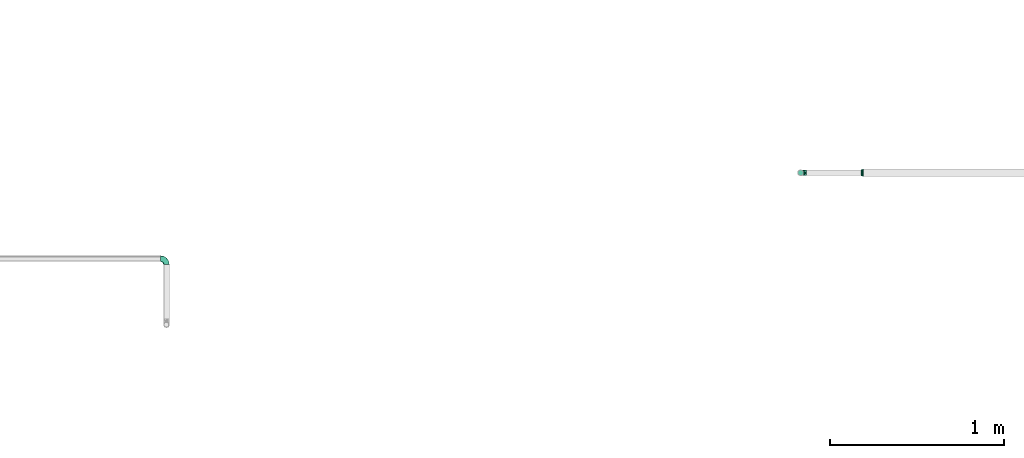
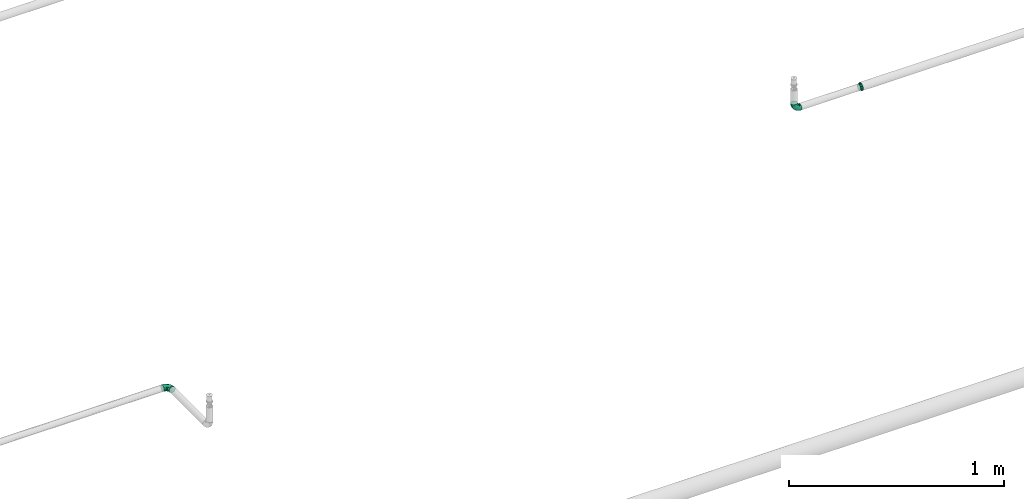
# One storey, part 37 of 94: 3 flow fittings.
"""IFC2X3 building model written with IfcOpenShell, lengths in millimetres."""

from ifc_helpers import new_model, entity, si_unit, converted_unit, derived_unit, direction, frame, origin_with_axes, place, context, subcontext, project, spatial, open_shell, surface_model, source, transform, mapped, type_object, element, save


model = new_model("IFC2X3")

# Units and contexts
model_context = context("Model", 3, precision=0.01, world=frame((0.0, 4.29681676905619e-09, 0.0)), true_north=direction((4.01073788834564e-13, 1.0)))
plan_context = context("Plan", 3, precision=0.01, world=frame((0.0, 4.29681676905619e-09, 0.0)), true_north=direction((4.01073788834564e-13, 1.0)))
body_context = subcontext(model_context, "Body", "Model", "MODEL_VIEW")
ifc_project = project(units=[converted_unit("PLANEANGLEUNIT", "DEGREE", entity("IfcPositiveLengthMeasure", 0.0174532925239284), si_unit("PLANEANGLEUNIT", "RADIAN"), dimensions=[0, 0, 0, 0, 0, 0, 0]), si_unit("AREAUNIT", "SQUARE_METRE"), si_unit("LENGTHUNIT", "METRE", prefix="MILLI"), si_unit("MASSUNIT", "GRAM", prefix="KILO"), si_unit("POWERUNIT", "WATT"), si_unit("PRESSUREUNIT", "PASCAL"), si_unit("FORCEUNIT", "NEWTON", prefix="KILO"), si_unit("ELECTRICCURRENTUNIT", "AMPERE"), si_unit("THERMODYNAMICTEMPERATUREUNIT", "DEGREE_CELSIUS"), si_unit("TIMEUNIT", "SECOND"), si_unit("VOLUMEUNIT", "CUBIC_METRE"), derived_unit("LINEARVELOCITYUNIT", [(si_unit("LENGTHUNIT", "METRE"), 1), (si_unit("TIMEUNIT", "SECOND"), -1)]), derived_unit("VOLUMETRICFLOWRATEUNIT", [(si_unit("VOLUMEUNIT", "CUBIC_METRE"), 1), (si_unit("TIMEUNIT", "SECOND"), -1)]), derived_unit("THERMALTRANSMITTANCEUNIT", [(si_unit("POWERUNIT", "WATT"), 1), (si_unit("THERMODYNAMICTEMPERATUREUNIT", "KELVIN"), -1), (si_unit("AREAUNIT", "SQUARE_METRE"), -1)])], contexts=[model_context, plan_context])

# Site, building, storey
site_placement = place(None, frame((0.0, -4.29681676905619e-09, 0.0), z_axis=(0.0, 0.0, 1.0), x_axis=(1.0, 0.0, 0.0)))
site = spatial("IfcSite", under=ifc_project, at=site_placement, CompositionType="ELEMENT")
building_placement = place(site_placement, frame((0.0, 4.29681676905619e-09, 0.0), z_axis=(0.0, 0.0, 1.0), x_axis=(1.0, 0.0, 0.0)))
building = spatial("IfcBuilding", under=site, at=building_placement, Name="mc-building", CompositionType="ELEMENT")
storey_placement = place(building_placement, frame((0.0, 0.0, 200300.0), z_axis=(0.0, 0.0, 1.0), x_axis=(1.0, 0.0, 0.0)))
storey = spatial("IfcBuildingStorey", under=building, at=storey_placement, Name="Nivå C", CompositionType="ELEMENT", Elevation=200300.0)

# Flow fittings
pipe_fitting_type_1 = type_object("IfcPipeFittingType", Name="magi_pipe_fe_elbow_short_001", PredefinedType="BEND")
shared_shape_1 = source(origin_with_axes(), body_context, "Body", "SurfaceModel", [
    surface_model("IfcShellBasedSurfaceModel", [(-33.8, 8.45, -14.63583), (-33.8, 4.37404, -16.32415), (-33.8, 11.9501, -11.9501), (-33.8, -11.9501, -11.9501), (-33.8, -14.63583, -8.45), (-33.8, -8.45, -14.63583), (-33.8, 0.0, -16.9), (-33.8, -4.37404, -16.32415), (-33.8, -4.37404, 16.32415), (-33.8, 0.0, 16.9), (-33.8, -8.45, 14.63583), (-33.8, 16.32415, -4.37404), (-33.8, 14.63583, -8.45), (-33.8, -16.32415, -4.37404), (-33.8, -16.9, 0.0), (-33.8, -16.32415, 4.37404), (-33.8, 11.9501, 11.9501), (-33.8, 14.63583, 8.45), (-33.8, 16.32415, 4.37404), (-33.8, 4.37404, 16.32415), (-33.8, 8.45, 14.63583), (-33.8, -14.63583, 8.45), (-33.8, -11.9501, 11.9501), (-33.8, 16.9, 0.0), (-11.9501, 33.8, -11.9501), (0.0, 33.8, -16.9), (-4.37404, 33.8, -16.32415), (-8.45, 33.8, -14.63583), (-14.63583, 33.8, -8.45), (-16.32415, 33.8, -4.37404), (14.63583, 33.8, -8.45), (8.45, 33.8, 14.63583), (16.32415, 33.8, -4.37404), (8.45, 33.8, -14.63583), (11.9501, 33.8, -11.9501), (4.37404, 33.8, -16.32415), (16.32415, 33.8, 4.37404), (16.9, 33.8, 0.0), (-11.9501, 33.8, 11.9501), (-16.32415, 33.8, 4.37404), (-14.63583, 33.8, 8.45), (-8.45, 33.8, 14.63583), (-4.37404, 33.8, 16.32415), (11.9501, 33.8, 11.9501), (14.63583, 33.8, 8.45), (0.0, 33.8, 16.9), (4.37404, 33.8, 16.32415), (-16.9, 33.8, 0.0), (-24.79389, -13.12945, 9.48721), (-22.19287, -9.75018, 12.59315), (-24.09897, -14.97035, 0.0), (-14.93934, -10.76256, 8.5297), (-22.46095, -14.75051, 5.27077), (14.75051, 22.46094, 5.27077), (11.9251, 13.23888, 4.33236), (13.04069, 14.39795, 0.0), (7.71387, 13.68847, 11.55891), (9.75018, 22.19287, 12.59315), (4.10169, 13.0571, 14.04018), (-24.84007, -6.39063, 15.2048), (-25.81779, -2.23879, 16.61097), (-23.66549, 2.59054, 16.87119), (-26.50418, 14.06512, 11.08152), (-24.21253, 17.66365, 7.72657), (-29.58514, 15.86957, 7.00283), (-6.17382, -7.5455, 0.0), (-13.23888, -11.9251, 4.33236), (-14.39795, -13.04069, 0.0), (-17.81434, 18.87373, 11.97104), (-6.30846, 29.15138, 15.82987), (-2.31622, 25.28002, 16.85849), (-29.23923, 10.23435, 13.77053), (-1.45439, -2.85688, 7.61475), (-0.28326, 0.34872, 10.09509), (-5.74484, -4.04709, 10.4122), (-4.41137, 11.31918, 16.59407), (-8.39727, 3.10034, 15.7812), (-1.72649, 9.1306, 15.53089), (-17.39909, 24.75344, 7.64977), (-26.19233, 20.0512, 0.0), (-28.14518, 17.29657, 4.25857), (-26.05147, 6.6281, 15.96447), (-5.87354, 16.61944, 16.86968), (-12.51807, 12.51807, 16.48937), (-10.06312, 7.38516, 16.81295), (-3.01882, 3.01882, 13.81718), (-13.0571, -4.10169, 14.04018), (-16.82553, -0.15166, 16.38038), (10.76256, 14.93934, 8.5297), (13.12945, 24.79389, 9.48721), (6.39063, 24.84007, 15.2048), (2.23879, 25.81779, 16.61097), (-13.68847, -7.71387, 11.55891), (14.97035, 24.09897, 0.0), (-7.30894, 22.89991, 16.09489), (-10.67958, 26.17414, 14.008), (-12.78295, 18.26924, 15.06066), (-13.88562, 22.45231, 12.93244), (-18.04944, 15.16501, 14.04434), (-23.11658, 20.08178, 4.02986), (-21.84989, 21.84989, 0.0), (-18.55817, 25.48277, 3.93065), (-13.95142, 26.94732, 11.03289), (-18.57098, 7.23906, 16.59756), (-16.58335, 4.14122, 16.89279), (-17.96666, 11.46709, 15.63151), (-9.84453, 17.54304, 16.18938), (0.15166, 16.82553, 16.38038), (-23.27207, 11.47201, 14.23154), (3.84842, 5.86994, 10.70473), (-8.0212, -7.54413, 7.93275), (1.00345, -2.19508, 4.57414), (5.13203, 3.01004, 5.90201), (5.24161, 1.7543, 2.53265), (8.70457, 7.04947, 3.99182), (-20.0512, 26.19233, 0.0), (8.4852, 8.76699, 7.09296), (-4.55488, -6.72064, 4.90681), (2.05031, -2.05031, 0.0), (7.5455, 6.17382, 0.0), (-26.75399, 2.1369, -16.845), (-14.61995, 24.73803, -11.27736), (-28.45274, -13.45335, -9.81895), (-26.00469, 6.63555, -15.96645), (-23.06726, 20.04573, -4.26202), (-13.80647, -4.26506, -14.17873), (-14.67501, -0.21081, -16.07388), (-6.7902, -0.2828, -13.8478), (-24.53586, 11.08096, -14.13417), (-26.72048, 14.00837, -11.05776), (10.0967, 24.44989, -12.75976), (5.83237, 21.40218, -15.03047), (6.66249, 28.54238, -15.38093), (-20.38182, 15.48705, -12.74596), (12.53268, 21.23441, -9.15363), (12.54494, 15.67504, -5.54878), (9.7522, 12.89279, -8.66343), (-15.65186, 19.64213, -13.01327), (-12.03528, 20.66498, -14.67665), (-15.61907, 15.61906, -14.83879), (-25.56551, -15.26206, 0.0), (-24.65452, -15.12934, -5.50955), (13.45335, 28.45274, -9.81895), (15.12934, 24.65452, -5.50955), (-7.35442, -8.31014, -5.65563), (-15.67504, -12.54494, -5.54878), (-24.44989, -10.0967, -12.75976), (0.16522, 0.41303, -9.71728), (-5.70658, -5.33066, -8.89288), (-5.13869, -2.37198, -11.53565), (-21.23441, -12.53268, -9.15363), (0.71146, 7.93863, -14.09382), (0.21081, 14.67501, -16.07388), (3.49291, 14.42772, -14.76381), (-24.89911, -2.13088, -16.591), (-28.54238, -6.66249, -15.38093), (-18.44386, -7.71663, -13.26957), (2.13088, 24.89911, -16.591), (-28.64342, 17.44413, -2.89318), (1.70017, -1.28722, -5.09504), (-16.57067, 26.81947, -7.36596), (-17.69055, 27.4263, -3.76405), (-12.89279, -9.7522, -8.66343), (-5.96611, 5.96611, -15.95814), (-20.53709, 20.09345, -8.28985), (-2.1369, 26.75399, -16.845), (-6.89872, 24.58781, -16.02578), (-10.60739, 26.53157, -13.98044), (-21.40218, -5.83237, -15.03047), (2.93192, 5.89627, -11.55917), (6.89393, 12.61842, -11.82233), (5.58056, 5.95325, -8.79455), (-3.99512, 18.61798, -16.89635), (8.31014, 7.35442, -5.65563), (-9.1383, 9.86148, -16.89041), (-9.99983, 16.02119, -16.39699), (-16.68576, 9.78031, -16.34199), (-27.01915, 16.61158, -7.12979), (15.26206, 25.56551, 0.0), (-18.61798, 3.99512, -16.89635), (-19.37495, 27.82495, 0.0), (-12.61842, -6.89393, -11.82233), (-18.84705, 19.14018, -10.96545)], [open_shell([[[0, 1, 2]], [[3, 4, 5]], [[6, 7, 5]], [[8, 9, 10]], [[1, 6, 2]], [[11, 12, 2]], [[4, 2, 6]], [[2, 13, 10]], [[5, 4, 6]], [[2, 4, 13]], [[14, 15, 13]], [[11, 2, 16]], [[11, 17, 18]], [[11, 16, 17]], [[19, 20, 16]], [[16, 2, 10]], [[19, 16, 10]], [[21, 22, 15]], [[22, 13, 15]], [[22, 10, 13]], [[10, 9, 19]], [[11, 18, 23]], [[24, 25, 26]], [[24, 26, 27]], [[24, 28, 29]], [[25, 24, 30]], [[31, 32, 24]], [[33, 30, 34]], [[33, 35, 25]], [[25, 30, 33]], [[32, 30, 24]], [[32, 36, 37]], [[38, 24, 29]], [[39, 40, 29]], [[40, 38, 29]], [[38, 41, 42]], [[38, 31, 24]], [[31, 38, 42]], [[36, 43, 44]], [[36, 32, 43]], [[31, 45, 46]], [[32, 31, 43]], [[42, 45, 31]], [[39, 29, 47]], [[22, 48, 49]], [[15, 14, 50]], [[51, 48, 52]], [[53, 54, 55]], [[48, 22, 21]], [[15, 52, 21]], [[56, 57, 58]], [[49, 10, 22]], [[49, 59, 10]], [[9, 60, 61]], [[62, 63, 64]], [[65, 66, 67]], [[57, 43, 31]], [[62, 68, 63]], [[42, 69, 70]], [[20, 71, 16]], [[8, 60, 9]], [[72, 73, 74]], [[75, 76, 77]], [[16, 62, 17]], [[40, 39, 78]], [[79, 23, 80]], [[64, 18, 17]], [[9, 61, 19]], [[19, 81, 20]], [[82, 83, 84]], [[74, 85, 86]], [[59, 86, 87]], [[88, 89, 57]], [[90, 31, 46]], [[44, 53, 36]], [[46, 45, 91]], [[54, 53, 88]], [[44, 89, 53]], [[92, 86, 49]], [[89, 44, 43]], [[10, 59, 8]], [[53, 55, 93]], [[93, 36, 53]], [[66, 52, 67]], [[94, 82, 70]], [[95, 96, 94]], [[97, 98, 96]], [[79, 99, 100]], [[41, 38, 95]], [[101, 100, 99]], [[68, 78, 63]], [[42, 41, 69]], [[23, 18, 80]], [[95, 94, 69]], [[78, 101, 99]], [[38, 102, 95]], [[70, 45, 42]], [[97, 95, 102]], [[15, 50, 52]], [[90, 57, 31]], [[57, 90, 58]], [[81, 19, 61]], [[103, 104, 84]], [[105, 81, 103]], [[38, 40, 102]], [[106, 96, 83]], [[94, 106, 82]], [[91, 70, 107]], [[71, 62, 16]], [[62, 108, 98]], [[86, 59, 49]], [[67, 52, 50]], [[60, 59, 87]], [[92, 49, 51]], [[86, 85, 76]], [[91, 90, 46]], [[37, 36, 93]], [[107, 77, 58]], [[107, 58, 90]], [[58, 85, 109]], [[110, 74, 92]], [[72, 74, 110]], [[66, 51, 52]], [[72, 111, 112]], [[113, 114, 112]], [[56, 88, 57]], [[52, 48, 21]], [[49, 48, 51]], [[57, 89, 43]], [[53, 89, 88]], [[103, 81, 61]], [[71, 81, 108]], [[18, 64, 80]], [[63, 78, 99]], [[47, 115, 101]], [[101, 115, 100]], [[40, 78, 102]], [[68, 102, 78]], [[97, 96, 95]], [[105, 98, 108]], [[103, 84, 83]], [[107, 70, 82]], [[76, 84, 87]], [[82, 84, 75]], [[70, 91, 45]], [[90, 91, 107]], [[59, 60, 8]], [[61, 60, 87]], [[73, 85, 74]], [[109, 112, 116]], [[103, 61, 104]], [[105, 103, 83]], [[96, 105, 83]], [[81, 105, 108]], [[96, 98, 105]], [[62, 98, 68]], [[61, 87, 104]], [[87, 84, 104]], [[86, 76, 87]], [[77, 76, 85]], [[58, 77, 85]], [[75, 77, 107]], [[82, 75, 107]], [[76, 75, 84]], [[81, 71, 20]], [[62, 71, 108]], [[95, 69, 41]], [[70, 69, 94]], [[62, 64, 17]], [[80, 63, 99]], [[63, 80, 64]], [[80, 99, 79]], [[66, 65, 117]], [[110, 66, 117]], [[112, 114, 116]], [[118, 117, 65]], [[110, 92, 51]], [[112, 111, 113]], [[119, 55, 54]], [[74, 86, 92]], [[58, 109, 56]], [[116, 56, 109]], [[66, 110, 51]], [[72, 110, 117]], [[111, 72, 117]], [[73, 112, 109]], [[117, 118, 111]], [[113, 111, 118]], [[118, 119, 113]], [[114, 119, 54]], [[119, 114, 113]], [[116, 54, 88]], [[54, 116, 114]], [[116, 88, 56]], [[112, 73, 72]], [[85, 73, 109]], [[78, 39, 101]], [[47, 101, 39]], [[102, 68, 97]], [[97, 68, 98]], [[82, 106, 83]], [[94, 96, 106]], [[1, 120, 6]], [[28, 24, 121]], [[3, 122, 4]], [[0, 123, 1]], [[100, 124, 79]], [[125, 126, 127]], [[128, 2, 129]], [[130, 131, 132]], [[128, 129, 133]], [[134, 135, 136]], [[137, 138, 139]], [[128, 0, 2]], [[67, 140, 141]], [[134, 142, 143]], [[141, 13, 4]], [[144, 65, 145]], [[146, 3, 5]], [[147, 148, 149]], [[145, 141, 150]], [[151, 152, 153]], [[154, 7, 6]], [[5, 155, 146]], [[150, 146, 156]], [[155, 5, 7]], [[143, 135, 134]], [[35, 157, 25]], [[23, 79, 158]], [[148, 159, 144]], [[160, 161, 29]], [[145, 162, 144]], [[163, 152, 151]], [[29, 28, 160]], [[121, 164, 160]], [[33, 34, 130]], [[25, 165, 26]], [[26, 165, 166]], [[142, 34, 30]], [[24, 27, 167]], [[124, 161, 164]], [[157, 35, 132]], [[155, 154, 168]], [[123, 0, 128]], [[169, 170, 171]], [[172, 157, 152]], [[26, 166, 27]], [[132, 35, 33]], [[142, 130, 34]], [[168, 154, 126]], [[136, 135, 173]], [[133, 137, 139]], [[2, 12, 129]], [[170, 131, 130]], [[30, 32, 143]], [[172, 174, 175]], [[176, 123, 128]], [[158, 177, 11]], [[135, 55, 119]], [[167, 27, 166]], [[175, 166, 172]], [[137, 167, 138]], [[122, 141, 4]], [[140, 14, 13]], [[32, 37, 178]], [[170, 130, 134]], [[152, 157, 131]], [[165, 157, 172]], [[153, 170, 151]], [[152, 163, 174]], [[168, 125, 156]], [[122, 146, 150]], [[120, 154, 6]], [[179, 174, 126]], [[179, 126, 154]], [[126, 163, 127]], [[162, 145, 150]], [[140, 13, 141]], [[32, 178, 143]], [[55, 143, 178]], [[177, 129, 12]], [[128, 133, 139]], [[176, 128, 139]], [[120, 123, 179]], [[121, 160, 28]], [[161, 100, 180]], [[166, 175, 138]], [[121, 24, 167]], [[161, 47, 29]], [[79, 124, 158]], [[124, 164, 177]], [[161, 124, 100]], [[136, 171, 170]], [[127, 163, 151]], [[147, 171, 159]], [[148, 144, 162]], [[127, 151, 169]], [[127, 181, 125]], [[129, 177, 164]], [[12, 11, 177]], [[159, 65, 144]], [[67, 141, 145]], [[143, 55, 135]], [[135, 119, 173]], [[123, 120, 1]], [[154, 120, 179]], [[157, 165, 25]], [[166, 165, 172]], [[172, 152, 174]], [[176, 139, 175]], [[126, 174, 163]], [[176, 174, 179]], [[174, 176, 175]], [[123, 176, 179]], [[150, 181, 162]], [[127, 149, 181]], [[181, 148, 162]], [[159, 148, 147]], [[171, 136, 173]], [[170, 134, 136]], [[159, 171, 173]], [[171, 147, 169]], [[169, 147, 149]], [[151, 170, 169]], [[164, 182, 129]], [[182, 121, 137]], [[181, 149, 148]], [[169, 149, 127]], [[182, 137, 133]], [[167, 137, 121]], [[166, 138, 167]], [[175, 139, 138]], [[129, 182, 133]], [[121, 182, 164]], [[161, 160, 164]], [[47, 161, 180]], [[177, 158, 124]], [[23, 158, 11]], [[130, 132, 33]], [[157, 132, 131]], [[143, 142, 30]], [[130, 142, 134]], [[154, 155, 7]], [[146, 155, 168]], [[146, 122, 3]], [[141, 122, 150]], [[152, 131, 153]], [[159, 119, 118]], [[67, 145, 65]], [[170, 153, 131]], [[119, 159, 173]], [[159, 118, 65]], [[156, 125, 181]], [[126, 125, 168]], [[150, 156, 181]], [[168, 156, 146]]])]),
])
for number, where, z_axis, x_axis, name in (
    (1, (518487.13097, 410500.1625, 2850.0), (0.0, 1.0, 0.0), (-1.0, 0.0, 0.0), "magi_pipe_fe_elbow_short_001"),
    (2, (514835.88771, 410005.75497, 2850.0), (0.0, 0.0, 1.0), (0.0, 1.0, 0.0), "magi_pipe_fe_elbow_short_001"),
):
    element("IfcFlowFitting", number, at=place(storey_placement, frame(where, z_axis=z_axis, x_axis=x_axis)), inside=storey, type_object=pipe_fitting_type_1, Name=name, context=body_context, shape_type="MappedRepresentation", body=[
        mapped(shared_shape_1, transform((0.0, 0.0, 0.0), scale=1.0)),
    ])
pipe_fitting_type_2 = type_object("IfcPipeFittingType", Name="magi_pipe_fe_reducer_centric_short_NOR", PredefinedType="TRANSITION")
shared_shape_2 = source(origin_with_axes(), body_context, "Body", "SurfaceModel", [
    surface_model("IfcShellBasedSurfaceModel", [(-2.0, -10.6, -18.35974), (-2.0, 0.0, -21.2), (-2.0, -5.48696, -20.47763), (-2.0, 5.48696, -20.47763), (-2.0, 10.6, -18.35974), (8.6, -11.9501, -11.9501), (8.6, -11.9501, 11.9501), (8.6, -16.9, 0.0), (8.6, 11.9501, -11.9501), (8.6, 16.9, 0.0), (8.6, 0.0, -16.9), (0.0, 17.15116, 12.46105), (0.0, 6.55116, -20.1624), (0.0, -21.2, 0.0), (0.0, -6.55116, -20.1624), (0.0, -17.15116, -12.46105), (8.6, 2.98753, -15.66253), (0.0, 0.0, -20.1624), (0.0, -11.85116, -16.31172), (8.6, -2.98753, -15.66253), (8.6, 8.96258, -13.18758), (8.6, 5.97505, -14.42505), (0.0, 11.85116, -16.31172), (8.6, -5.97505, -14.42505), (8.6, -13.18758, -8.96258), (8.6, -8.96258, -13.18758), (0.0, -6.55116, 20.1624), (8.6, -2.98753, 15.66253), (0.0, 0.0, 20.1624), (8.6, 11.9501, 11.9501), (0.0, 11.85116, 16.31172), (8.6, 2.98753, 15.66253), (0.0, 6.55116, 20.1624), (8.6, -8.96258, 13.18758), (8.6, -5.97505, 14.42505), (0.0, -11.85116, 16.31172), (8.6, 5.97505, 14.42505), (8.6, 13.18758, 8.96258), (8.6, 8.96258, 13.18758), (10.6, 4.37404, -16.32415), (10.6, 8.45, -14.63583), (10.6, 11.9501, -11.9501), (10.6, -8.45, -14.63583), (10.6, 16.32415, -4.37404), (10.6, 16.32415, 4.37404), (10.6, 14.63583, -8.45), (10.6, 0.0, -16.9), (10.6, -4.37404, -16.32415), (10.6, -11.9501, -11.9501), (10.6, -16.32415, -4.37404), (10.6, -14.63583, -8.45), (10.6, -16.32415, 4.37404), (10.6, 16.9, 0.0), (10.6, 14.63583, 8.45), (10.6, 11.9501, 11.9501), (10.6, 4.37404, 16.32415), (10.6, 8.45, 14.63583), (10.6, 0.0, 16.9), (10.6, -14.63583, 8.45), (10.6, -16.9, 0.0), (10.6, -8.45, 14.63583), (10.6, -11.9501, 11.9501), (10.6, -4.37404, 16.32415), (8.6, 4.37404, 16.32415), (8.6, -14.63583, 8.45), (8.6, 0.0, 16.9), (8.6, 16.32415, 4.37404), (8.6, 8.45, 14.63583), (8.6, 14.63583, 8.45), (8.6, -8.45, 14.63583), (8.6, -4.37404, 16.32415), (8.6, -16.32415, 4.37404), (8.6, -16.32415, -4.37404), (8.6, -8.45, -14.63583), (8.6, 16.32415, -4.37404), (8.6, 14.63583, -8.45), (8.6, 8.45, -14.63583), (8.6, 4.37404, -16.32415), (8.6, -14.63583, -8.45), (8.6, -4.37404, -16.32415), (-2.0, 0.0, 21.2), (-2.0, 5.48696, 20.47763), (-2.0, 10.6, 18.35974), (-2.0, 14.99066, 14.99066), (-2.0, 18.35974, 10.6), (-2.0, 20.47763, 5.48696), (-2.0, -21.2, 0.0), (-2.0, -14.99066, -14.99066), (-2.0, -5.48696, 20.47763), (-2.0, -14.99066, 14.99066), (-2.0, -10.6, 18.35974), (-2.0, -18.35974, 10.6), (-2.0, -20.47763, 5.48696), (-2.0, 20.47763, -5.48696), (-2.0, 14.99066, -14.99066), (-2.0, 18.35974, -10.6), (-2.0, -18.35974, -10.6), (-2.0, -20.47763, -5.48696), (-2.0, 21.2, 0.0), (0.0, 10.6, -18.35974), (0.0, 0.0, -21.2), (0.0, 5.48696, -20.47763), (0.0, 20.47763, -5.48696), (0.0, 14.99066, -14.99066), (0.0, -14.99066, -14.99066), (0.0, 18.35974, -10.6), (0.0, -10.6, -18.35974), (0.0, -5.48696, -20.47763), (0.0, -18.35974, -10.6), (0.0, -20.47763, -5.48696), (0.0, -18.35974, 10.6), (0.0, 21.2, 0.0), (0.0, 20.47763, 5.48696), (0.0, 18.35974, 10.6), (0.0, 14.99066, 14.99066), (0.0, 0.0, 21.2), (0.0, 10.6, 18.35974), (0.0, 5.48696, 20.47763), (0.0, -14.99066, 14.99066), (0.0, -20.47763, 5.48696), (0.0, -5.48696, 20.47763), (0.0, -10.6, 18.35974), (0.0, -17.15116, 12.46105), (0.0, 17.15116, -12.46105), (0.0, 14.50116, -14.38638), (8.6, -14.42505, -5.97505), (0.0, -19.17558, -6.23052), (0.0, -18.16337, -9.34579), (8.6, 14.42505, -5.97505), (0.0, 19.17558, -6.23052), (8.6, 13.18758, -8.96258), (8.6, 15.66253, -2.98753), (8.6, -15.66253, -2.98753), (0.0, -14.50116, 14.38638), (8.6, 14.42505, 5.97505), (0.0, 19.17558, 6.23052), (0.0, 18.16337, 9.34579), (8.6, -14.42505, 5.97505), (0.0, -19.17558, 6.23052), (8.6, -13.18758, 8.96258), (8.6, -15.66253, 2.98753), (8.6, 15.66253, 2.98753)], [open_shell([[[0, 1, 2]], [[3, 1, 4]], [[5, 6, 7]], [[8, 9, 10]], [[11, 12, 13]], [[13, 12, 14]], [[13, 14, 15]], [[12, 16, 17]], [[5, 15, 18]], [[17, 19, 14]], [[20, 21, 22]], [[19, 23, 14]], [[12, 21, 16]], [[15, 5, 24]], [[25, 5, 18]], [[22, 8, 20]], [[26, 27, 28]], [[29, 11, 30]], [[28, 31, 32]], [[33, 34, 35]], [[31, 36, 32]], [[26, 34, 27]], [[11, 29, 37]], [[38, 29, 30]], [[35, 6, 33]], [[39, 40, 41]], [[42, 39, 41]], [[41, 43, 44]], [[43, 41, 45]], [[41, 44, 42]], [[46, 42, 47]], [[46, 39, 42]], [[48, 49, 50]], [[49, 48, 42]], [[42, 51, 49]], [[44, 43, 52]], [[44, 53, 54]], [[44, 54, 55]], [[55, 51, 42]], [[55, 54, 56]], [[51, 55, 57]], [[57, 58, 51]], [[59, 49, 51]], [[58, 60, 61]], [[58, 57, 60]], [[60, 57, 62]], [[42, 44, 55]], [[63, 64, 65]], [[66, 63, 67]], [[29, 68, 66]], [[29, 66, 67]], [[64, 63, 66]], [[69, 64, 6]], [[69, 70, 65]], [[65, 64, 69]], [[71, 64, 66]], [[71, 72, 7]], [[71, 66, 73]], [[66, 74, 8]], [[8, 74, 75]], [[8, 76, 77]], [[73, 66, 8]], [[77, 10, 8]], [[72, 5, 78]], [[5, 72, 73]], [[73, 10, 79]], [[72, 71, 73]], [[8, 10, 73]], [[74, 66, 9]], [[72, 49, 7]], [[78, 50, 72]], [[42, 5, 73]], [[78, 5, 48]], [[47, 73, 79]], [[72, 50, 49]], [[49, 59, 7]], [[47, 42, 73]], [[48, 5, 42]], [[48, 50, 78]], [[46, 47, 79]], [[79, 10, 46]], [[77, 39, 10]], [[76, 40, 77]], [[45, 8, 75]], [[76, 8, 41]], [[43, 75, 74]], [[76, 41, 40]], [[40, 39, 77]], [[52, 43, 74]], [[45, 75, 43]], [[45, 41, 8]], [[9, 52, 74]], [[10, 39, 46]], [[66, 44, 9]], [[68, 53, 66]], [[56, 29, 67]], [[68, 29, 54]], [[55, 67, 63]], [[66, 53, 44]], [[44, 52, 9]], [[55, 56, 67]], [[54, 29, 56]], [[54, 53, 68]], [[57, 55, 63]], [[63, 65, 57]], [[70, 62, 65]], [[69, 60, 70]], [[58, 6, 64]], [[69, 6, 61]], [[51, 64, 71]], [[69, 61, 60]], [[60, 62, 70]], [[59, 51, 71]], [[58, 64, 51]], [[58, 61, 6]], [[7, 59, 71]], [[65, 62, 57]], [[80, 81, 82]], [[80, 82, 83]], [[83, 84, 85]], [[83, 85, 80]], [[86, 80, 87]], [[88, 89, 90]], [[88, 80, 89]], [[91, 86, 92]], [[89, 80, 91]], [[80, 86, 91]], [[80, 85, 87]], [[85, 93, 4]], [[94, 93, 95]], [[87, 85, 4]], [[4, 93, 94]], [[86, 96, 97]], [[87, 96, 86]], [[0, 87, 4]], [[1, 0, 4]], [[93, 85, 98]], [[99, 100, 101]], [[102, 99, 103]], [[13, 104, 99]], [[102, 103, 105]], [[102, 13, 99]], [[100, 106, 107]], [[100, 99, 106]], [[108, 13, 109]], [[106, 99, 104]], [[108, 104, 13]], [[110, 102, 111]], [[112, 113, 114]], [[112, 114, 115]], [[116, 117, 115]], [[116, 115, 114]], [[112, 115, 118]], [[13, 110, 119]], [[102, 110, 13]], [[118, 120, 121]], [[110, 112, 118]], [[115, 120, 118]], [[110, 111, 112]], [[97, 109, 86]], [[96, 108, 97]], [[106, 87, 0]], [[96, 87, 104]], [[107, 0, 2]], [[97, 108, 109]], [[109, 13, 86]], [[107, 106, 0]], [[104, 87, 106]], [[104, 108, 96]], [[100, 107, 2]], [[2, 1, 100]], [[3, 101, 1]], [[4, 99, 3]], [[105, 94, 95]], [[4, 94, 103]], [[102, 95, 93]], [[4, 103, 99]], [[99, 101, 3]], [[111, 102, 93]], [[105, 95, 102]], [[105, 103, 94]], [[98, 111, 93]], [[1, 101, 100]], [[85, 112, 98]], [[84, 113, 85]], [[116, 83, 82]], [[84, 83, 114]], [[117, 82, 81]], [[85, 113, 112]], [[112, 111, 98]], [[117, 116, 82]], [[114, 83, 116]], [[114, 113, 84]], [[115, 117, 81]], [[81, 80, 115]], [[88, 120, 80]], [[90, 121, 88]], [[110, 89, 91]], [[90, 89, 118]], [[119, 91, 92]], [[90, 118, 121]], [[121, 120, 88]], [[13, 119, 92]], [[110, 91, 119]], [[110, 118, 89]], [[86, 13, 92]], [[80, 120, 115]], [[65, 6, 29]], [[9, 29, 6]], [[6, 10, 9]], [[10, 6, 5]], [[32, 11, 122]], [[32, 122, 26]], [[122, 11, 13]], [[12, 11, 123]], [[123, 11, 111]], [[8, 22, 124]], [[125, 126, 127]], [[22, 21, 12]], [[8, 124, 123]], [[128, 123, 129]], [[17, 16, 10]], [[123, 128, 130]], [[111, 131, 129]], [[13, 132, 7]], [[18, 23, 25]], [[13, 126, 132]], [[19, 17, 10]], [[131, 111, 9]], [[125, 132, 126]], [[15, 24, 127]], [[24, 125, 127]], [[8, 123, 130]], [[23, 18, 14]], [[131, 128, 129]], [[6, 35, 133]], [[134, 135, 136]], [[35, 34, 26]], [[6, 133, 122]], [[137, 122, 138]], [[28, 27, 65]], [[122, 137, 139]], [[13, 140, 138]], [[111, 141, 9]], [[30, 36, 38]], [[111, 135, 141]], [[31, 28, 65]], [[140, 13, 7]], [[134, 141, 135]], [[11, 37, 136]], [[37, 134, 136]], [[6, 122, 139]], [[36, 30, 32]], [[140, 137, 138]]])]),
])
flow_fitting_placement = place(storey_placement, frame((518847.13097, 410500.1625, 2850.0), z_axis=(0.0, 0.0, 1.0), x_axis=(-1.0, 0.0, 0.0)))
element("IfcFlowFitting", 3, at=flow_fitting_placement, inside=storey, type_object=pipe_fitting_type_2, Name="magi_pipe_fe_reducer_centric_short_NOR", context=body_context, shape_type="MappedRepresentation", body=[
    mapped(shared_shape_2, transform((0.0, 0.0, 0.0), scale=1.0)),
])

save(model, "model.ifc")
